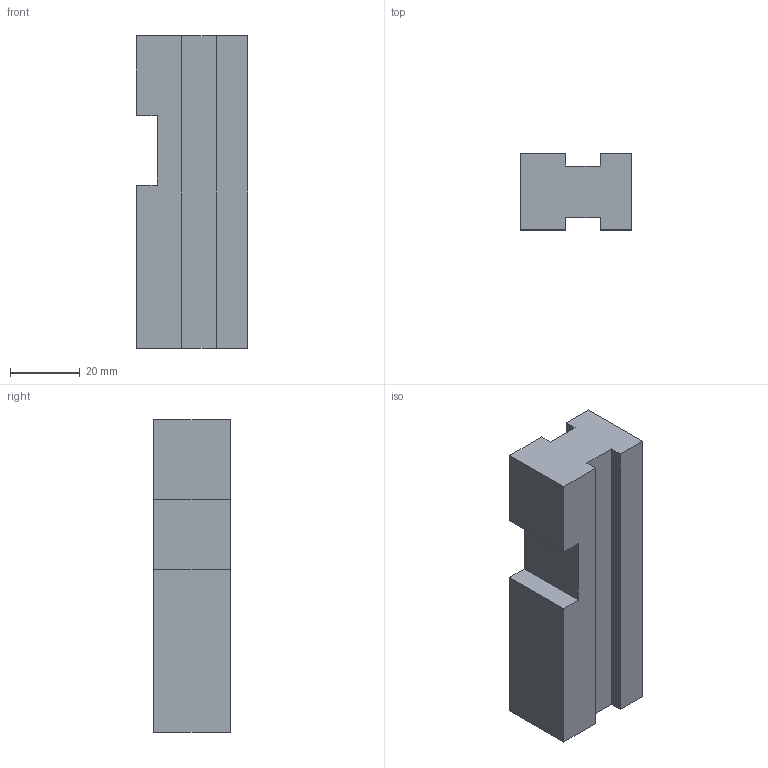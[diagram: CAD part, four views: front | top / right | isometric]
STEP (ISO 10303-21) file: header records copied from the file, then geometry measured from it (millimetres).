
FILE_DESCRIPTION(('CATIA V5 STEP Exchange'),'2;1');
FILE_NAME('D:\Clients_NCS8\Cenit-AG\Import\OKUMA250\C2-M3.stp','2005-03-09T16:54:37+00:00',('none'),('none'),'CATIA Version 5 Release 14 (IN-10)','CATIA V5 STEP AP203','none');
FILE_SCHEMA(('CONFIG_CONTROL_DESIGN'));
Length unit declared in the file: millimetre
Products named in the file (2): okuma_dr-fr; Forkart_FNC200
Assembly tree (2 placements, depth 3):
  okuma_dr-fr
    Forkart_FNC200
      #62
Bounding box: 32 x 22 x 90 mm (x, y, z)
Volume: 54240 mm3; surface area: 12304 mm2
Topology: 1 solids, 1 shells, 18 faces, 48 edges, 32 vertices
Faces by surface type: plane 18
Entity records: 610 total; most frequent: CARTESIAN_POINT 97, ORIENTED_EDGE 96, DIRECTION 82, VECTOR 48, EDGE_CURVE 48, LINE 48, VERTEX_POINT 32, ADVANCED_FACE 18
